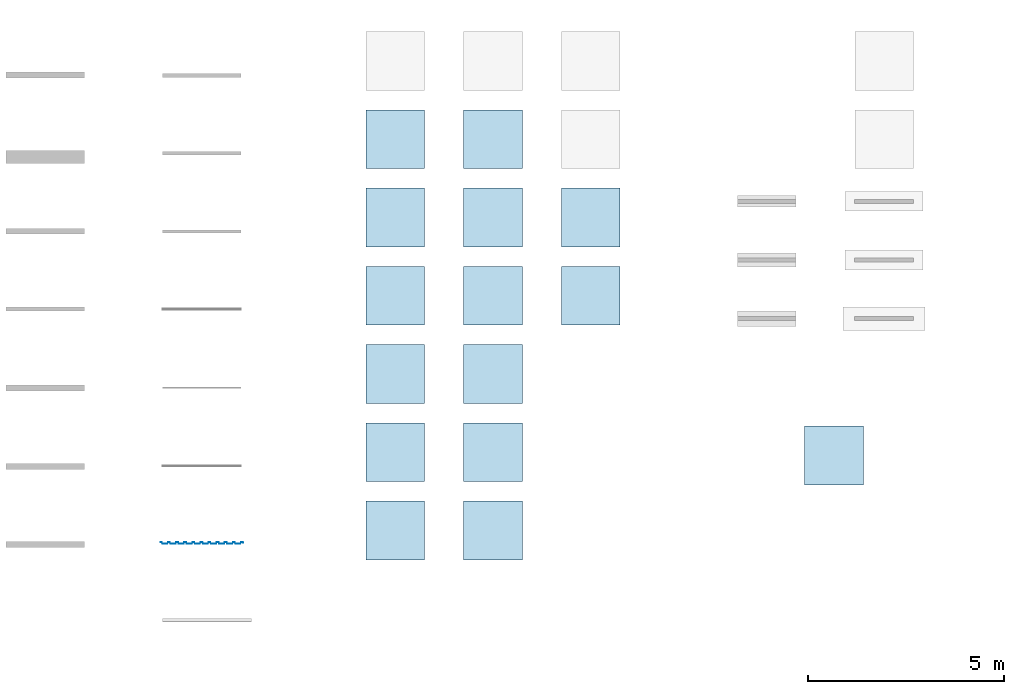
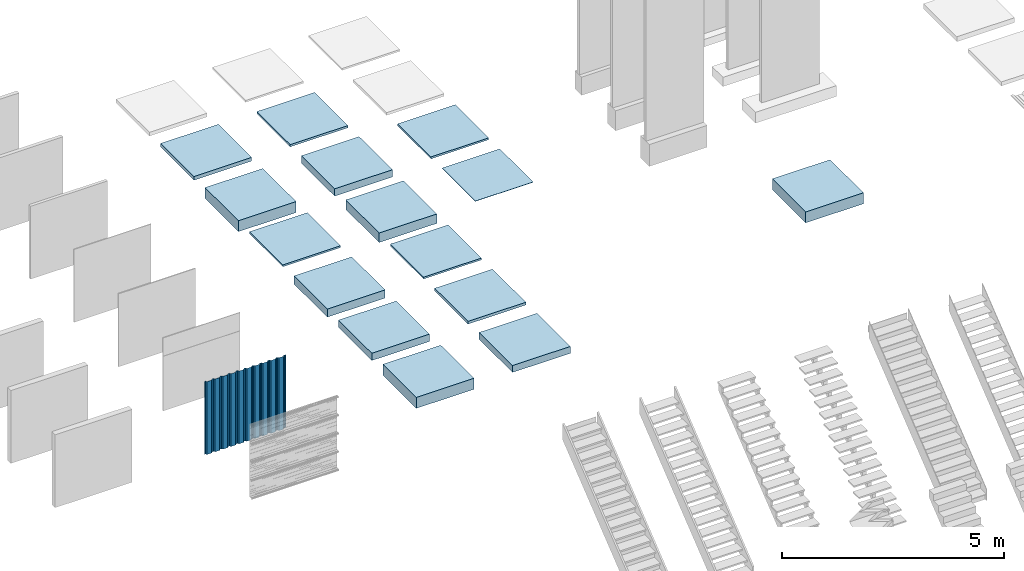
# One storey, part 3 of 13: 15 slabs, 2 plates, 1 element without a shape of its own.
"""IFC2X3 building model written with IfcOpenShell, lengths in millimetres."""

from ifc_helpers import new_model, entity, si_unit, converted_unit, derived_unit, direction, frame, frame_2d, origin, origin_2d_with_axis, place, context, subcontext, project, spatial, polyline, circle_curve, parameter, trimmed, segment, composite_curve, rectangle, outline, extrude, source, transform, mapped, material, layer, layer_set, layer_usage, type_object, type_shapes, element, aggregate, save


model = new_model("IFC2X3")

# Units and contexts
model_context = context("Model", 3, precision=0.01, world=origin(), true_north=direction((6.12303176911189e-17, 1.0)))
body_context = subcontext(model_context, "Body", "Model", "MODEL_VIEW")
ifc_project = project(units=[si_unit("LENGTHUNIT", "METRE", prefix="MILLI"), si_unit("AREAUNIT", "SQUARE_METRE"), si_unit("VOLUMEUNIT", "CUBIC_METRE"), converted_unit("PLANEANGLEUNIT", "DEGREE", entity("IfcRatioMeasure", 0.0174532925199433), si_unit("PLANEANGLEUNIT", "RADIAN"), dimensions=[0, 0, 0, 0, 0, 0, 0]), si_unit("MASSUNIT", "GRAM", prefix="KILO"), si_unit("TIMEUNIT", "SECOND"), si_unit("FREQUENCYUNIT", "HERTZ"), si_unit("THERMODYNAMICTEMPERATUREUNIT", "KELVIN"), derived_unit("THERMALTRANSMITTANCEUNIT", [(si_unit("MASSUNIT", "GRAM", prefix="KILO"), 1), (si_unit("THERMODYNAMICTEMPERATUREUNIT", "KELVIN"), -1), (si_unit("TIMEUNIT", "SECOND"), -3)]), derived_unit("VOLUMETRICFLOWRATEUNIT", [(si_unit("LENGTHUNIT", "METRE"), 3), (si_unit("TIMEUNIT", "SECOND"), -1)]), si_unit("ELECTRICCURRENTUNIT", "AMPERE"), si_unit("ELECTRICVOLTAGEUNIT", "VOLT"), si_unit("POWERUNIT", "WATT")], contexts=[model_context])

# Site, building, storey
site_placement = place(None, origin())
site = spatial("IfcSite", under=ifc_project, at=site_placement, Name="Surface", CompositionType="ELEMENT")
building_placement = place(site_placement, origin())
building = spatial("IfcBuilding", under=site, at=building_placement, CompositionType="ELEMENT")
storey_placement = place(building_placement, origin())
storey = spatial("IfcBuildingStorey", under=building, at=storey_placement, Name="00_begane grond", CompositionType="ELEMENT", Elevation=0.0)

# Curtain wall, plates
curtain_wall_type = type_object("IfcCurtainWallType", PredefinedType="NOTDEFINED")
curtain_wall_placement = place(storey_placement, origin())
curtain_wall = element("IfcCurtainWall", 1, at=curtain_wall_placement, inside=storey, type_object=curtain_wall_type)
plate_type = type_object("IfcPlateType", Name="SAB35_1035", PredefinedType="NOTDEFINED")
shared_shape = source(origin(), body_context, "Body", "SweptSolid", [
    extrude(outline(composite_curve([segment(polyline([(-305.801843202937, -425.10492461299), (-270.924006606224, -425.10492461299)]), True, "CONTINUOUS"), segment(trimmed(circle_curve(frame_2d((-270.924006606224, -419.083497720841), x_axis=(0.565528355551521, 0.824728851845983)), 6.02142689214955), [parameter(214.438989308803)], [parameter(269.999999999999)], True, "PARAMETER"), True, "CONTINUOUS"), segment(polyline([(-265.957962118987, -422.488785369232), (-200.634048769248, -327.224745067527)]), True, "CONTINUOUS"), segment(trimmed(circle_curve(frame_2d((-205.600093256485, -323.819457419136), x_axis=(0.565528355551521, 0.824728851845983)), 6.02142689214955), [parameter(269.999999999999)], [parameter(325.561010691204)], True, "PARAMETER"), True, "CONTINUOUS"), segment(polyline([(-199.98321531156, -321.649603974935), (-213.425506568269, -286.852917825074)]), True, "CONTINUOUS"), segment(trimmed(circle_curve(frame_2d((-209.680921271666, -285.406348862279), x_axis=(0.565528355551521, 0.824728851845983)), 4.01428459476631), [parameter(90.0000000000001)], [parameter(145.561010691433)], True, "PARAMETER"), False, "CONTINUOUS"), segment(polyline([(-212.991617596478, -283.136157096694), (-193.279573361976, -254.389425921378)]), True, "CONTINUOUS"), segment(trimmed(circle_curve(frame_2d((-189.968877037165, -256.659617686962), x_axis=(0.565528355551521, 0.824728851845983)), 4.01428459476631), [parameter(34.4389893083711)], [parameter(90.0000000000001)], True, "PARAMETER"), False, "CONTINUOUS"), segment(polyline([(-189.968877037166, -252.645333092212), (-152.666000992, -252.6453330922)]), True, "CONTINUOUS"), segment(trimmed(circle_curve(frame_2d((-152.666000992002, -246.62390620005), x_axis=(0.565528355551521, 0.824728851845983)), 6.02142689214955), [parameter(214.438989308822)], [parameter(270.0)], True, "PARAMETER"), True, "CONTINUOUS"), segment(polyline([(-147.699956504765, -250.029193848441), (-83.1516248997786, -155.896210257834)]), True, "CONTINUOUS"), segment(trimmed(circle_curve(frame_2d((-88.1176693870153, -152.490922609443), x_axis=(0.565528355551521, 0.824728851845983)), 6.02142689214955), [parameter(270.0)], [parameter(325.5610106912)], True, "PARAMETER"), True, "CONTINUOUS"), segment(polyline([(-82.5007914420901, -150.321069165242), (-95.9430826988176, -115.524383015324)]), True, "CONTINUOUS"), segment(trimmed(circle_curve(frame_2d((-92.1984974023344, -114.077814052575), x_axis=(0.565528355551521, 0.824728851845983)), 4.01428459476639), [parameter(90.0000000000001)], [parameter(145.561010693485)], True, "PARAMETER"), False, "CONTINUOUS"), segment(polyline([(-95.5091937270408, -111.807622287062), (-75.7971494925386, -83.0608911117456)]), True, "CONTINUOUS"), segment(trimmed(circle_curve(frame_2d((-72.4864531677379, -85.3310828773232), x_axis=(0.565528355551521, 0.824728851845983)), 4.01428459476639), [parameter(34.4389893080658)], [parameter(89.9999999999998)], True, "PARAMETER"), False, "CONTINUOUS"), segment(polyline([(-72.4864531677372, -81.316798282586), (-35.1835771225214, -81.3167982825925)]), True, "CONTINUOUS"), segment(trimmed(circle_curve(frame_2d((-35.1835771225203, -75.2953713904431), x_axis=(0.565528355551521, 0.824728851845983)), 6.02142689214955), [parameter(214.438989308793)], [parameter(269.999999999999)], True, "PARAMETER"), True, "CONTINUOUS"), segment(polyline([(-30.2175326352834, -78.7006590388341), (34.3307989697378, 15.4323245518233)]), True, "CONTINUOUS"), segment(trimmed(circle_curve(frame_2d((29.3647544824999, 18.837612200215), x_axis=(0.565528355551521, 0.824728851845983)), 6.02142689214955), [parameter(269.999999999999)], [parameter(325.561010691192)], True, "PARAMETER"), True, "CONTINUOUS"), segment(polyline([(34.9816324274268, 21.0074656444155), (21.5393411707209, 55.8041517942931)]), True, "CONTINUOUS"), segment(trimmed(circle_curve(frame_2d((25.2839264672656, 57.2507207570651), x_axis=(0.565528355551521, 0.824728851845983)), 4.01428459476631), [parameter(90.0000000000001)], [parameter(145.561010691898)], True, "PARAMETER"), False, "CONTINUOUS"), segment(polyline([(21.973230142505, 59.5209125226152), (41.6852743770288, 88.2676436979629)]), True, "CONTINUOUS"), segment(trimmed(circle_curve(frame_2d((44.9959707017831, 85.9974519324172), x_axis=(0.565528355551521, 0.824728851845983)), 4.01428459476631), [parameter(34.4389893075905)], [parameter(90.0000000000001)], True, "PARAMETER"), False, "CONTINUOUS"), segment(polyline([(44.995970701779, 90.0117365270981), (82.2988467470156, 90.0117365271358)]), True, "CONTINUOUS"), segment(trimmed(circle_curve(frame_2d((82.2988467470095, 96.0331634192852), x_axis=(0.565528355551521, 0.824728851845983)), 6.02142689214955), [parameter(214.438989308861)], [parameter(270.0)], True, "PARAMETER"), True, "CONTINUOUS"), segment(polyline([(87.2648912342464, 92.6278757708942), (151.81322283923, 186.760859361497)]), True, "CONTINUOUS"), segment(trimmed(circle_curve(frame_2d((146.847178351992, 190.166147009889), x_axis=(0.565528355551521, 0.824728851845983)), 6.02142689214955), [parameter(270.0)], [parameter(325.561010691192)], True, "PARAMETER"), True, "CONTINUOUS"), segment(polyline([(152.464056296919, 192.33600045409), (139.021765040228, 227.13268660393)]), True, "CONTINUOUS"), segment(trimmed(circle_curve(frame_2d((142.766350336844, 228.579255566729), x_axis=(0.565528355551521, 0.824728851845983)), 4.01428459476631), [parameter(90.0000000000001)], [parameter(145.561010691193)], True, "PARAMETER"), False, "CONTINUOUS"), segment(polyline([(139.45565401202, 230.849447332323), (159.167698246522, 259.596178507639)]), True, "CONTINUOUS"), segment(trimmed(circle_curve(frame_2d((162.478394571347, 257.325986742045), x_axis=(0.565528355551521, 0.824728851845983)), 4.01428459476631), [parameter(34.4389893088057)], [parameter(90.0000000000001)], True, "PARAMETER"), False, "CONTINUOUS"), segment(polyline([(162.478394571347, 261.340271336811), (199.781270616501, 261.340271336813)]), True, "CONTINUOUS"), segment(trimmed(circle_curve(frame_2d((199.781270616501, 267.361698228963), x_axis=(0.565528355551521, 0.824728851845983)), 6.02142689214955), [parameter(214.438989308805)], [parameter(269.999999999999)], True, "PARAMETER"), True, "CONTINUOUS"), segment(polyline([(204.747315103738, 263.956410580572), (269.295646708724, 358.089394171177)]), True, "CONTINUOUS"), segment(trimmed(circle_curve(frame_2d((264.329602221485, 361.494681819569), x_axis=(0.565528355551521, 0.824728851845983)), 6.02142689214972), [parameter(269.999999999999)], [parameter(325.561010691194)], True, "PARAMETER"), True, "CONTINUOUS"), segment(polyline([(269.946480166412, 363.66453526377), (256.50418890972, 398.461221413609)]), True, "CONTINUOUS"), segment(trimmed(circle_curve(frame_2d((260.248774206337, 399.907790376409), x_axis=(0.565528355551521, 0.824728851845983)), 4.01428459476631), [parameter(90.0000000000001)], [parameter(145.561010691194)], True, "PARAMETER"), False, "CONTINUOUS"), segment(polyline([(256.938077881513, 402.177982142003), (276.650122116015, 430.92471331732)]), True, "CONTINUOUS"), segment(trimmed(circle_curve(frame_2d((279.960818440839, 428.654521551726), x_axis=(0.565528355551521, 0.824728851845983)), 4.01428459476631), [parameter(34.4389893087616)], [parameter(90.0000000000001)], True, "PARAMETER"), False, "CONTINUOUS"), segment(polyline([(279.960818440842, 432.668806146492), (298.15419015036, 432.668806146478)]), True, "CONTINUOUS"), segment(polyline([(298.15419015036, 432.668806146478), (298.154190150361, 434.67594844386)]), True, "CONTINUOUS"), segment(polyline([(298.154190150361, 434.67594844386), (279.960818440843, 434.675948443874)]), True, "CONTINUOUS"), segment(trimmed(circle_curve(frame_2d((279.960818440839, 428.654521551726), x_axis=(0.565528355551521, 0.824728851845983)), 6.02142689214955), [parameter(34.4389893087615)], [parameter(89.9999999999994)], True, "PARAMETER"), True, "CONTINUOUS"), segment(polyline([(274.994773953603, 432.059809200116), (255.282729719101, 403.3130780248)]), True, "CONTINUOUS"), segment(trimmed(circle_curve(frame_2d((260.248774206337, 399.907790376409), x_axis=(0.565528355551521, 0.824728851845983)), 6.02142689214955), [parameter(89.9999999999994)], [parameter(145.561010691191)], True, "PARAMETER"), True, "CONTINUOUS"), segment(polyline([(254.631896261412, 397.737936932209), (268.074187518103, 362.941250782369)]), True, "CONTINUOUS"), segment(trimmed(circle_curve(frame_2d((264.329602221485, 361.494681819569), x_axis=(0.565528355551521, 0.824728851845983)), 4.01428459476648), [parameter(270.0)], [parameter(325.561010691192)], True, "PARAMETER"), False, "CONTINUOUS"), segment(polyline([(267.640298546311, 359.224490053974), (203.091966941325, 265.091506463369)]), True, "CONTINUOUS"), segment(trimmed(circle_curve(frame_2d((199.781270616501, 267.361698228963), x_axis=(0.565528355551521, 0.824728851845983)), 4.01428459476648), [parameter(214.438989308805)], [parameter(270.0)], True, "PARAMETER"), False, "CONTINUOUS"), segment(polyline([(199.781270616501, 263.347413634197), (162.478394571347, 263.347413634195)]), True, "CONTINUOUS"), segment(trimmed(circle_curve(frame_2d((162.478394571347, 257.325986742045), x_axis=(0.565528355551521, 0.824728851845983)), 6.02142689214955), [parameter(34.4389893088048)], [parameter(89.9999999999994)], True, "PARAMETER"), True, "CONTINUOUS"), segment(polyline([(157.51235008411, 260.731274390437), (137.800305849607, 231.98454321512)]), True, "CONTINUOUS"), segment(trimmed(circle_curve(frame_2d((142.766350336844, 228.579255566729), x_axis=(0.565528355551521, 0.824728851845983)), 6.02142689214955), [parameter(89.9999999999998)], [parameter(145.561010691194)], True, "PARAMETER"), True, "CONTINUOUS"), segment(polyline([(137.149472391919, 226.409402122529), (150.591763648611, 191.61271597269)]), True, "CONTINUOUS"), segment(trimmed(circle_curve(frame_2d((146.847178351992, 190.166147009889), x_axis=(0.565528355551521, 0.824728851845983)), 4.01428459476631), [parameter(270.0)], [parameter(325.561010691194)], True, "PARAMETER"), False, "CONTINUOUS"), segment(polyline([(150.157874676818, 187.895955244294), (85.6095430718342, 93.7629716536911)]), True, "CONTINUOUS"), segment(trimmed(circle_curve(frame_2d((82.2988467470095, 96.0331634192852), x_axis=(0.565528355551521, 0.824728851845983)), 4.01428459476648), [parameter(214.438989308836)], [parameter(270.0)], True, "PARAMETER"), False, "CONTINUOUS"), segment(polyline([(82.2988467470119, 92.0188788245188), (44.9959707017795, 92.018878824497)]), True, "CONTINUOUS"), segment(trimmed(circle_curve(frame_2d((44.9959707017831, 85.9974519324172), x_axis=(0.565528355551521, 0.824728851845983)), 6.02142689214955), [parameter(34.4389893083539)], [parameter(89.9999999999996)], True, "PARAMETER"), True, "CONTINUOUS"), segment(polyline([(40.0299262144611, 89.4027395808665), (20.3178819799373, 60.6560084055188)]), True, "CONTINUOUS"), segment(trimmed(circle_curve(frame_2d((25.2839264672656, 57.2507207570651), x_axis=(0.565528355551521, 0.824728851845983)), 6.02142689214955), [parameter(89.9999999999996)], [parameter(145.561010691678)], True, "PARAMETER"), True, "CONTINUOUS"), segment(polyline([(19.6670485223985, 55.080867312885), (33.1093397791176, 20.284181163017)]), True, "CONTINUOUS"), segment(trimmed(circle_curve(frame_2d((29.3647544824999, 18.837612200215), x_axis=(0.565528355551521, 0.824728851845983)), 4.01428459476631), [parameter(270.0)], [parameter(325.561010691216)], True, "PARAMETER"), False, "CONTINUOUS"), segment(polyline([(32.6754508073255, 16.5674204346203), (-31.8728807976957, -77.5655631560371)]), True, "CONTINUOUS"), segment(trimmed(circle_curve(frame_2d((-35.1835771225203, -75.2953713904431), x_axis=(0.565528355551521, 0.824728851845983)), 4.01428459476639), [parameter(214.438989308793)], [parameter(270.0)], True, "PARAMETER"), False, "CONTINUOUS"), segment(polyline([(-35.183577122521, -79.3096559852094), (-72.4864531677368, -79.3096559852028)]), True, "CONTINUOUS"), segment(trimmed(circle_curve(frame_2d((-72.4864531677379, -85.3310828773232), x_axis=(0.565528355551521, 0.824728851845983)), 6.02142689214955), [parameter(34.4389893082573)], [parameter(89.9999999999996)], True, "PARAMETER"), True, "CONTINUOUS"), segment(polyline([(-77.452497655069, -81.9257952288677), (-97.1645418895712, -110.672526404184)]), True, "CONTINUOUS"), segment(trimmed(circle_curve(frame_2d((-92.1984974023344, -114.077814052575), x_axis=(0.565528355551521, 0.824728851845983)), 6.02142689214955), [parameter(89.9999999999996)], [parameter(145.56101069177)], True, "PARAMETER"), True, "CONTINUOUS"), segment(polyline([(-97.8153753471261, -116.247667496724), (-84.3730840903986, -151.044353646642)]), True, "CONTINUOUS"), segment(trimmed(circle_curve(frame_2d((-88.1176693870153, -152.490922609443), x_axis=(0.565528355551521, 0.824728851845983)), 4.01428459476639), [parameter(270.0)], [parameter(325.5610106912)], True, "PARAMETER"), False, "CONTINUOUS"), segment(polyline([(-84.8069730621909, -154.761114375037), (-149.355304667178, -248.894097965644)]), True, "CONTINUOUS"), segment(trimmed(circle_curve(frame_2d((-152.666000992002, -246.62390620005), x_axis=(0.565528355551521, 0.824728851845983)), 4.01428459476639), [parameter(214.438989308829)], [parameter(270.0)], True, "PARAMETER"), False, "CONTINUOUS"), segment(polyline([(-152.666000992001, -250.638190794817), (-189.968877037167, -250.638190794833)]), True, "CONTINUOUS"), segment(trimmed(circle_curve(frame_2d((-189.968877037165, -256.659617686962), x_axis=(0.565528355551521, 0.824728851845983)), 6.02142689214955), [parameter(34.4389893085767)], [parameter(89.9999999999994)], True, "PARAMETER"), True, "CONTINUOUS"), segment(polyline([(-194.934921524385, -253.254330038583), (-214.646965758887, -282.001061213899)]), True, "CONTINUOUS"), segment(trimmed(circle_curve(frame_2d((-209.680921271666, -285.406348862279), x_axis=(0.565528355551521, 0.824728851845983)), 6.02142689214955), [parameter(89.9999999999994)], [parameter(145.561010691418)], True, "PARAMETER"), True, "CONTINUOUS"), segment(polyline([(-215.297799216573, -287.576202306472), (-201.855507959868, -322.372888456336)]), True, "CONTINUOUS"), segment(trimmed(circle_curve(frame_2d((-205.600093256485, -323.819457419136), x_axis=(0.565528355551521, 0.824728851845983)), 4.01428459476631), [parameter(270.0)], [parameter(325.561010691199)], True, "PARAMETER"), False, "CONTINUOUS"), segment(polyline([(-202.28939693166, -326.08964918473), (-267.613310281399, -421.353689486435)]), True, "CONTINUOUS"), segment(trimmed(circle_curve(frame_2d((-270.924006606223, -419.083497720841), x_axis=(0.565528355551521, 0.824728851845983)), 4.01428459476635), [parameter(214.438989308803)], [parameter(270.0)], True, "PARAMETER"), False, "CONTINUOUS"), segment(polyline([(-270.924006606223, -423.097782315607), (-305.801843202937, -423.097782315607)]), True, "CONTINUOUS"), segment(trimmed(circle_curve(frame_2d((-305.801843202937, -429.119209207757), x_axis=(0.565528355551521, 0.824728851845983)), 6.02142689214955), [parameter(34.4389893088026)], [parameter(89.9999999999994)], True, "PARAMETER"), True, "CONTINUOUS"), segment(polyline([(-310.767887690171, -425.713921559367), (-326.299389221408, -448.364027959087)]), True, "CONTINUOUS"), segment(polyline([(-326.299389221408, -448.364027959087), (-324.644041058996, -449.499123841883)]), True, "CONTINUOUS"), segment(polyline([(-324.644041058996, -449.499123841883), (-309.11253952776, -426.849017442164)]), True, "CONTINUOUS"), segment(trimmed(circle_curve(frame_2d((-305.801843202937, -429.119209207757), x_axis=(0.565528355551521, 0.824728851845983)), 4.01428459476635), [parameter(34.4389893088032)], [parameter(90.0000000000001)], True, "PARAMETER"), False, "CONTINUOUS")], self_intersect=False)), frame((24.9265260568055, 19.4540507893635, 0.0), z_axis=(0.0, 0.0, 1.0), x_axis=(0.565528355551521, -0.824728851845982, 0.0)), (0.0, 0.0, 1.0), 2000.0),
])
type_shapes(plate_type, [shared_shape])
plate_1_placement = place(curtain_wall_placement, frame((12477.5, -15000.0, 0.0)))
plate_1 = element("IfcPlate", 2, at=plate_1_placement, type_object=plate_type, Name="21_CWP_SAB35_1035:SAB35_1035", ObjectType="SAB35_1035", context=body_context, shape_type="MappedRepresentation", body=[
    mapped(shared_shape, transform((0.0, 0.0, 0.0), scale=1.0)),
])
plate_2_placement = place(curtain_wall_placement, frame((13512.5, -15000.0, 0.0)))
plate_2 = element("IfcPlate", 3, at=plate_2_placement, type_object=plate_type, Name="21_CWP_SAB35_1035:SAB35_1035", ObjectType="SAB35_1035", context=body_context, shape_type="MappedRepresentation", body=[
    mapped(shared_shape, transform((0.0, 0.0, 0.0), scale=1.0)),
])
aggregate(curtain_wall, [plate_1, plate_2])

# Slabs
ifc_material_1 = material(Name="Default")
ifc_layer_1 = layer(ifc_material_1, 100.0)
ifc_layer_set_1 = layer_set([ifc_layer_1], Name="Floor:23_FL_generiek_100")
ifc_layer_usage_1 = layer_usage(ifc_layer_set_1, "AXIS3", "POSITIVE", 0.0)
slab_1_placement = place(storey_placement, origin())
element("IfcSlab", 4, at=slab_1_placement, inside=storey, material=ifc_layer_usage_1, Name="Floor:23_FL_generiek_100", ObjectType="Floor:23_FL_generiek_100", PredefinedType="FLOOR", context=body_context, shape_type="SweptSolid", body=[
    extrude(rectangle(XDim=1500.0, YDim=1500.0, at=frame_2d((5.11590769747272e-13, 0.0), x_axis=(1.0, 0.0))), frame((17943.3473849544, -4665.0, 0.0), z_axis=(0.0, 0.0, -1.0), x_axis=(0.0, 1.0, 0.0)), (0.0, 0.0, 1.0), 100.0),
])
ifc_layer_2 = layer(ifc_material_1, 300.0)
ifc_layer_set_2 = layer_set([ifc_layer_2], Name="Floor:23_FL_generiek_300")
ifc_layer_usage_2 = layer_usage(ifc_layer_set_2, "AXIS3", "POSITIVE", 0.0)
slab_2_placement = place(storey_placement, origin())
element("IfcSlab", 5, at=slab_2_placement, inside=storey, material=ifc_layer_usage_2, Name="Floor:23_FL_generiek_300", ObjectType="Floor:23_FL_generiek_300", PredefinedType="FLOOR", context=body_context, shape_type="SweptSolid", body=[
    extrude(rectangle(XDim=1500.0, YDim=1500.0, at=frame_2d((5.11590769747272e-13, 0.0), x_axis=(1.0, 0.0))), frame((17943.3473849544, -6665.0, 0.0), z_axis=(0.0, 0.0, -1.0), x_axis=(0.0, 1.0, 0.0)), (0.0, 0.0, 1.0), 300.0),
])
ifc_material_2 = material(Name="11_werkvloer_stampbeton")
ifc_layer_3 = layer(ifc_material_2, 50.0)
ifc_layer_set_3 = layer_set([ifc_layer_3], Name="Floor:11_FL_werkvloer_stampbeton_50")
ifc_layer_usage_3 = layer_usage(ifc_layer_set_3, "AXIS3", "POSITIVE", 0.0)
slab_3_placement = place(storey_placement, origin())
element("IfcSlab", 6, at=slab_3_placement, inside=storey, material=ifc_layer_usage_3, Name="Floor:11_FL_werkvloer_stampbeton_50", ObjectType="Floor:11_FL_werkvloer_stampbeton_50", PredefinedType="FLOOR", context=body_context, shape_type="SweptSolid", body=[
    extrude(rectangle(XDim=1500.0, YDim=1500.0, at=frame_2d((5.11590769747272e-13, 0.0), x_axis=(1.0, 0.0))), frame((17943.3473849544, -8665.0, 0.0), z_axis=(0.0, 0.0, -1.0), x_axis=(0.0, 1.0, 0.0)), (0.0, 0.0, 1.0), 50.0),
])
ifc_material_3 = material(Name="13_beton_ihwg_C20/25")
ifc_layer_4 = layer(ifc_material_3, 120.0)
ifc_material_4 = material(Name="20_isolatie_EPS")
ifc_layer_5 = layer(ifc_material_4, 100.0)
ifc_material_5 = material(Name="11_bodemafsluiter_folie")
ifc_layer_6 = layer(ifc_material_5, 2.0)
ifc_layer_set_4 = layer_set([ifc_layer_4, ifc_layer_5, ifc_layer_6], Name="Floor:13_FL_ihwg_beton_geïsoleerd_222_120-100-2")
ifc_layer_usage_4 = layer_usage(ifc_layer_set_4, "AXIS3", "POSITIVE", 0.0)
slab_4_placement = place(storey_placement, origin())
element("IfcSlab", 7, at=slab_4_placement, inside=storey, material=ifc_layer_usage_4, Name="Floor:13_FL_ihwg_beton_geïsoleerd_222_120-100-2", ObjectType="Floor:13_FL_ihwg_beton_geïsoleerd_222_120-100-2", PredefinedType="FLOOR", context=body_context, shape_type="SweptSolid", body=[
    extrude(rectangle(XDim=1500.0, YDim=1500.0, at=frame_2d((0.0, -2.1600499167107e-12), x_axis=(1.0, 0.0))), frame((17943.3473849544, -10665.0, 0.0), z_axis=(0.0, 0.0, -1.0), x_axis=(0.0, 1.0, 0.0)), (0.0, 0.0, 1.0), 222.0),
])
ifc_layer_7 = layer(ifc_material_3, 200.0)
ifc_layer_set_5 = layer_set([ifc_layer_7], Name="Floor:23_FL_ihwg_beton_200")
ifc_layer_usage_5 = layer_usage(ifc_layer_set_5, "AXIS3", "POSITIVE", 0.0)
slab_5_placement = place(storey_placement, origin())
element("IfcSlab", 8, at=slab_5_placement, inside=storey, material=ifc_layer_usage_5, Name="Floor:23_FL_ihwg_beton_200", ObjectType="Floor:23_FL_ihwg_beton_200", PredefinedType="FLOOR", context=body_context, shape_type="SweptSolid", body=[
    extrude(rectangle(XDim=1500.0, YDim=1500.0, at=origin_2d_with_axis()), frame((17943.3473849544, -12665.0, 0.0), z_axis=(0.0, 0.0, -1.0), x_axis=(0.0, 1.0, 0.0)), (0.0, 0.0, 1.0), 200.0),
])
ifc_layer_8 = layer(ifc_material_3, 300.0)
ifc_layer_set_6 = layer_set([ifc_layer_8], Name="Floor:23_FL_ihwg_beton_300")
ifc_layer_usage_6 = layer_usage(ifc_layer_set_6, "AXIS3", "POSITIVE", 0.0)
slab_6_placement = place(storey_placement, origin())
element("IfcSlab", 9, at=slab_6_placement, inside=storey, material=ifc_layer_usage_6, Name="Floor:23_FL_ihwg_beton_300", ObjectType="Floor:23_FL_ihwg_beton_300", PredefinedType="FLOOR", context=body_context, shape_type="SweptSolid", body=[
    extrude(rectangle(XDim=1500.0, YDim=1500.0, at=frame_2d((2.1600499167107e-12, 0.0), x_axis=(1.0, 0.0))), frame((17943.3473849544, -14665.0, 0.0), z_axis=(0.0, 0.0, -1.0), x_axis=(0.0, 1.0, 0.0)), (0.0, 0.0, 1.0), 300.0),
])
ifc_material_6 = material(Name="28_beton_prefab_C45_55")
ifc_layer_9 = layer(ifc_material_6, 60.0)
ifc_layer_set_7 = layer_set([ifc_layer_9], Name="Floor:23_FL_breedplaat_60")
ifc_layer_usage_7 = layer_usage(ifc_layer_set_7, "AXIS3", "POSITIVE", 0.0)
slab_7_placement = place(storey_placement, origin())
element("IfcSlab", 10, at=slab_7_placement, inside=storey, material=ifc_layer_usage_7, Name="Floor:23_FL_breedplaat_60", ObjectType="Floor:23_FL_breedplaat_60", PredefinedType="FLOOR", context=body_context, shape_type="SweptSolid", body=[
    extrude(rectangle(XDim=1500.0, YDim=1500.00000000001, at=frame_2d((-5.11590769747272e-13, 0.0), x_axis=(1.0, 0.0))), frame((20443.3473849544, -4665.0, 0.0), z_axis=(0.0, 0.0, -1.0), x_axis=(0.0, 1.0, 0.0)), (0.0, 0.0, 1.0), 60.0),
])
ifc_layer_10 = layer(ifc_material_6, 200.0)
ifc_layer_set_8 = layer_set([ifc_layer_10], Name="Floor:23_FL_kanaalplaat_200")
ifc_layer_usage_8 = layer_usage(ifc_layer_set_8, "AXIS3", "POSITIVE", 0.0)
slab_8_placement = place(storey_placement, origin())
element("IfcSlab", 11, at=slab_8_placement, inside=storey, material=ifc_layer_usage_8, Name="Floor:23_FL_kanaalplaat_200", ObjectType="Floor:23_FL_kanaalplaat_200", PredefinedType="FLOOR", context=body_context, shape_type="SweptSolid", body=[
    extrude(rectangle(XDim=1500.0, YDim=1500.00000000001, at=frame_2d((5.11590769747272e-13, 0.0), x_axis=(1.0, 0.0))), frame((20443.3473849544, -6665.0, 0.0), z_axis=(0.0, 0.0, -1.0), x_axis=(0.0, 1.0, 0.0)), (0.0, 0.0, 1.0), 200.0),
])
ifc_layer_11 = layer(ifc_material_6, 260.0)
ifc_layer_set_9 = layer_set([ifc_layer_11], Name="Floor:23_FL_kanaalplaat_260")
ifc_layer_usage_9 = layer_usage(ifc_layer_set_9, "AXIS3", "POSITIVE", 0.0)
slab_9_placement = place(storey_placement, origin())
element("IfcSlab", 12, at=slab_9_placement, inside=storey, material=ifc_layer_usage_9, Name="Floor:23_FL_kanaalplaat_260", ObjectType="Floor:23_FL_kanaalplaat_260", PredefinedType="FLOOR", context=body_context, shape_type="SweptSolid", body=[
    extrude(rectangle(XDim=1500.0, YDim=1500.00000000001, at=frame_2d((-5.11590769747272e-13, 0.0), x_axis=(1.0, 0.0))), frame((20443.3473849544, -8665.0, 0.0), z_axis=(0.0, 0.0, -1.0), x_axis=(0.0, 1.0, 0.0)), (0.0, 0.0, 1.0), 260.0),
])
ifc_layer_12 = layer(ifc_material_3, 50.0)
ifc_layer_set_10 = layer_set([ifc_layer_12], Name="Floor:23_FL_zwaluwstaartvloer_ihwg_beton_50")
ifc_layer_usage_10 = layer_usage(ifc_layer_set_10, "AXIS3", "POSITIVE", 0.0)
slab_10_placement = place(storey_placement, origin())
element("IfcSlab", 13, at=slab_10_placement, inside=storey, material=ifc_layer_usage_10, Name="Floor:23_FL_zwaluwstaartvloer_ihwg_beton_50", ObjectType="Floor:23_FL_zwaluwstaartvloer_ihwg_beton_50", PredefinedType="FLOOR", context=body_context, shape_type="SweptSolid", body=[
    extrude(rectangle(XDim=1500.0, YDim=1500.0, at=frame_2d((1.08002495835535e-12, 0.0), x_axis=(1.0, 0.0))), frame((20443.3473849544, -10665.0, 0.0), z_axis=(0.0, 0.0, -1.0), x_axis=(0.0, 1.0, 0.0)), (0.0, 0.0, 1.0), 50.0),
])
ifc_layer_13 = layer(ifc_material_3, 75.0)
ifc_layer_set_11 = layer_set([ifc_layer_13], Name="Floor:23_FL_zwaluwstaartvloer_ihwg_beton_75")
ifc_layer_usage_11 = layer_usage(ifc_layer_set_11, "AXIS3", "POSITIVE", 0.0)
slab_11_placement = place(storey_placement, origin())
element("IfcSlab", 14, at=slab_11_placement, inside=storey, material=ifc_layer_usage_11, Name="Floor:23_FL_zwaluwstaartvloer_ihwg_beton_75", ObjectType="Floor:23_FL_zwaluwstaartvloer_ihwg_beton_75", PredefinedType="FLOOR", context=body_context, shape_type="SweptSolid", body=[
    extrude(rectangle(XDim=1500.0, YDim=1500.0, at=origin_2d_with_axis()), frame((20443.3473849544, -12665.0, 0.0), z_axis=(0.0, 0.0, -1.0), x_axis=(0.0, 1.0, 0.0)), (0.0, 0.0, 1.0), 75.0),
])
ifc_material_7 = material(Name="23_beplating_underlayment")
ifc_layer_14 = layer(ifc_material_7, 18.0)
ifc_material_8 = material(Name="23_houten_balklaag_geventileerd")
ifc_layer_15 = layer(ifc_material_8, 171.0)
ifc_layer_set_12 = layer_set([ifc_layer_14, ifc_layer_15], Name="Floor:23_FL_hout_underlayment_189mm_171-18")
ifc_layer_usage_12 = layer_usage(ifc_layer_set_12, "AXIS3", "POSITIVE", 0.0)
slab_12_placement = place(storey_placement, origin())
element("IfcSlab", 15, at=slab_12_placement, inside=storey, material=ifc_layer_usage_12, Name="Floor:23_FL_hout_underlayment_189mm_171-18", ObjectType="Floor:23_FL_hout_underlayment_189mm_171-18", PredefinedType="FLOOR", context=body_context, shape_type="SweptSolid", body=[
    extrude(rectangle(XDim=1500.0, YDim=1500.00000000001, at=origin_2d_with_axis()), frame((20443.3473849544, -14665.0, 0.0), z_axis=(0.0, 0.0, -1.0), x_axis=(0.0, 1.0, 0.0)), (0.0, 0.0, 1.0), 189.0),
])
ifc_material_9 = material(Name="43_vloerafwerking_hout_planken")
ifc_layer_16 = layer(ifc_material_9, 22.0)
ifc_material_10 = material(Name="20_isolatie_steenwol")
ifc_layer_17 = layer(ifc_material_10, 30.0)
ifc_layer_set_13 = layer_set([ifc_layer_16, ifc_layer_17], Name="Floor:43_FL_eiken_planken 150_geluidsisolatie_52_22-30")
ifc_layer_usage_13 = layer_usage(ifc_layer_set_13, "AXIS3", "POSITIVE", 0.0)
slab_13_placement = place(storey_placement, origin())
element("IfcSlab", 16, at=slab_13_placement, inside=storey, material=ifc_layer_usage_13, Name="Floor:43_FL_eiken_planken 150_geluidsisolatie_52_22-30", ObjectType="Floor:43_FL_eiken_planken 150_geluidsisolatie_52_22-30", PredefinedType="FLOOR", context=body_context, shape_type="SweptSolid", body=[
    extrude(rectangle(XDim=1500.0, YDim=1500.00000000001, at=origin_2d_with_axis()), frame((22943.3473849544, -6665.0, 0.0), z_axis=(0.0, 0.0, -1.0), x_axis=(0.0, 1.0, 0.0)), (0.0, 0.0, 1.0), 52.0),
])
ifc_material_11 = material(Name="43_tapijt_rood")
ifc_layer_18 = layer(ifc_material_11, 9.0)
ifc_layer_set_14 = layer_set([ifc_layer_18], Name="Floor:43_FL_tapijt_rood")
ifc_layer_usage_14 = layer_usage(ifc_layer_set_14, "AXIS3", "POSITIVE", 0.0)
slab_14_placement = place(storey_placement, origin())
element("IfcSlab", 17, at=slab_14_placement, inside=storey, material=ifc_layer_usage_14, Name="Floor:43_FL_tapijt_rood", ObjectType="Floor:43_FL_tapijt_rood", PredefinedType="FLOOR", context=body_context, shape_type="SweptSolid", body=[
    extrude(rectangle(XDim=1500.0, YDim=1500.00000000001, at=frame_2d((-5.11590769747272e-13, 0.0), x_axis=(1.0, 0.0))), frame((22943.3473849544, -8665.0, 0.0), z_axis=(0.0, 0.0, -1.0), x_axis=(0.0, 1.0, 0.0)), (0.0, 0.0, 1.0), 9.0),
])
ifc_material_12 = material(Name="90_bouwplaats")
ifc_layer_19 = layer(ifc_material_12, 300.0)
ifc_layer_set_15 = layer_set([ifc_layer_19], Name="Pad:90_SITE_bouwplaats")
ifc_layer_usage_15 = layer_usage(ifc_layer_set_15, "AXIS3", "NEGATIVE", 0.0)
slab_15_placement = place(storey_placement, frame((28413.3473849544, -13495.0, -300.0)))
element("IfcSlab", 18, at=slab_15_placement, inside=storey, material=ifc_layer_usage_15, Name="Pad:90_SITE_bouwplaats", ObjectType="Pad:90_SITE_bouwplaats", PredefinedType="FLOOR", context=body_context, shape_type="SweptSolid", body=[
    extrude(rectangle(XDim=1500.00000000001, YDim=1499.99999999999, at=origin_2d_with_axis()), frame((750.0, 750.0, 300.0), z_axis=(0.0, 0.0, -1.0), x_axis=(-1.0, 0.0, 0.0)), (0.0, 0.0, 1.0), 300.0),
])

save(model, "model.ifc")
